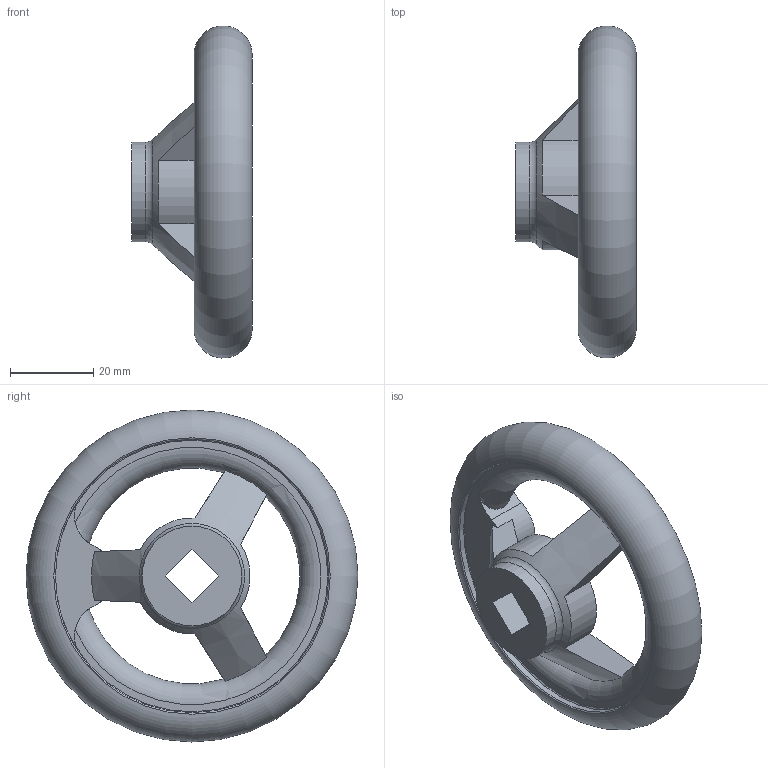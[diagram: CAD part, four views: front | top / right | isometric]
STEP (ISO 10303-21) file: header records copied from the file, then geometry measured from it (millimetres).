
FILE_DESCRIPTION( ( 'STEP AP203' ), '1' );
FILE_NAME( 'C:/Temp/Ganter_Step_05_03_2020/data/1_3/din_950/din_950_v/din_950_v_a/Handwheel DIN 950-GG-80-V9-A.stp', '2020-03-05T10:31:30', ( 'License CC BY-ND 4.0' ), ( 'CADENAS' ), ' ', 'PARTsolutions', ' ' );
FILE_SCHEMA( ( 'CONFIG_CONTROL_DESIGN' ) );
Length unit declared in the file: millimetre
Products named in the file (1): _Handwheel DIN 950-GG-80-V9-A
Bounding box: 29 x 79.98 x 79.98 mm (x, y, z)
Volume: 39897 mm3; surface area: 13822.9 mm2
Topology: 1 solids, 1 shells, 38 faces, 110 edges, 70 vertices
Faces by surface type: plane 16, cylinder 10, torus 10, cone 2
Full cylindrical faces by diameter (mm): 24 x2, 66 x2
Entity records: 1456 total; most frequent: CARTESIAN_POINT 490, DIRECTION 186, ORIENTED_EDGE 186, EDGE_CURVE 93, AXIS2_PLACEMENT_3D 81, VERTEX_POINT 67, EDGE_LOOP 55, FACE_OUTER_BOUND 49
